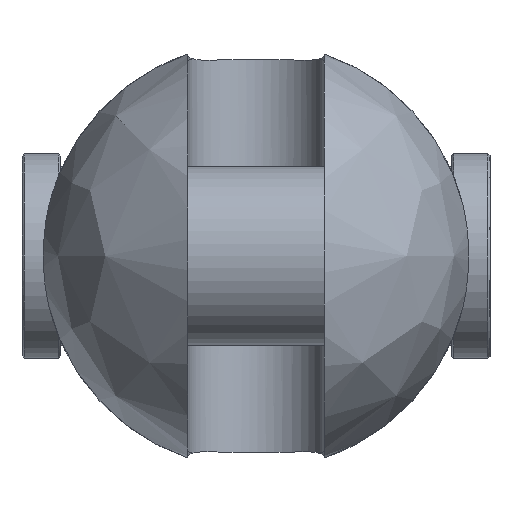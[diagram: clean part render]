
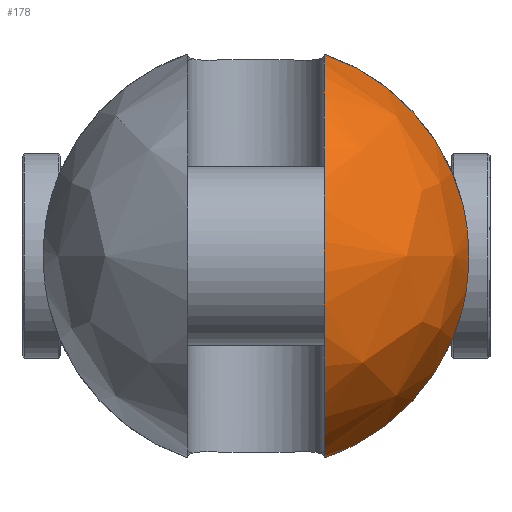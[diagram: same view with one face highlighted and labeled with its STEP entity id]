
A CAD part, left-side view. The second image highlights one B-rep face of the part: STEP entity #178.
In plain terms, the highlighted free-form (B-spline) face has degree [2, 2] with [9, 5] control points.
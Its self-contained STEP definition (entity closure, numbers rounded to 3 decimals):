
#178=ADVANCED_FACE('',(#318),#2404,.T.);
#318=FACE_OUTER_BOUND('',#478,.T.);
#478=EDGE_LOOP('',(#1187,#1188,#1189,#1190));
#1187=ORIENTED_EDGE('',*,*,#1570,.T.);
#1188=ORIENTED_EDGE('',*,*,#1594,.F.);
#1189=ORIENTED_EDGE('',*,*,#1606,.T.);
#1190=ORIENTED_EDGE('',*,*,#1586,.F.);
#1570=EDGE_CURVE('',#2237,#2236,#1972,.T.);
#1586=EDGE_CURVE('',#2237,#2249,#1982,.T.);
#1594=EDGE_CURVE('',#2256,#2236,#1983,.T.);
#1606=EDGE_CURVE('',#2256,#2249,#1779,.T.);
#1779=B_SPLINE_CURVE_WITH_KNOTS('',3,(#6098,#6099,#6100,#6101,#6102,#6103,
#6104,#6105,#6106,#6107,#6108,#6109,#6110,#6111),.UNSPECIFIED.,.F.,.F.,
(4,2,2,2,2,2,4),(0.,1.423,6.959,12.495,18.031,
23.567,24.99),.UNSPECIFIED.);
#1972=(
BOUNDED_CURVE()
B_SPLINE_CURVE(2,(#5874,#5875,#5876,#5877,#5878),.UNSPECIFIED.,.F.,.F.)
B_SPLINE_CURVE_WITH_KNOTS((3,2,3),(-148.82,-74.41,
0.),.UNSPECIFIED.)
CURVE()
GEOMETRIC_REPRESENTATION_ITEM()
RATIONAL_B_SPLINE_CURVE((1.,0.707,1.,0.707,1.))
REPRESENTATION_ITEM('')
);
#1982=(
BOUNDED_CURVE()
B_SPLINE_CURVE(2,(#5968,#5969,#5970),.UNSPECIFIED.,.F.,.F.)
B_SPLINE_CURVE_WITH_KNOTS((3,3),(0.,50.264),.UNSPECIFIED.)
CURVE()
GEOMETRIC_REPRESENTATION_ITEM()
RATIONAL_B_SPLINE_CURVE((1.,0.876,1.))
REPRESENTATION_ITEM('')
);
#1983=(
BOUNDED_CURVE()
B_SPLINE_CURVE(2,(#6025,#6026,#6027),.UNSPECIFIED.,.F.,.F.)
B_SPLINE_CURVE_WITH_KNOTS((3,3),(0.,50.264),.UNSPECIFIED.)
CURVE()
GEOMETRIC_REPRESENTATION_ITEM()
RATIONAL_B_SPLINE_CURVE((1.,0.876,1.))
REPRESENTATION_ITEM('')
);
#2236=VERTEX_POINT('',#5734);
#2237=VERTEX_POINT('',#5735);
#2249=VERTEX_POINT('',#5747);
#2256=VERTEX_POINT('',#5754);
#2404=(
BOUNDED_SURFACE()
B_SPLINE_SURFACE(2,2,((#5448,#5449,#5450,#5451,#5452),(#5453,#5454,#5455,
#5456,#5457),(#5458,#5459,#5460,#5461,#5462),(#5463,#5464,#5465,#5466,#5467),
(#5468,#5469,#5470,#5471,#5472),(#5473,#5474,#5475,#5476,#5477),(#5478,
#5479,#5480,#5481,#5482),(#5483,#5484,#5485,#5486,#5487),(#5488,#5489,#5490,
#5491,#5492)),.UNSPECIFIED.,.T.,.F.,.F.)
B_SPLINE_SURFACE_WITH_KNOTS((3,2,2,2,3),(3,2,3),(0.,78.54,157.08,
235.619,314.159),(0.,78.54,157.08),
 .UNSPECIFIED.)
GEOMETRIC_REPRESENTATION_ITEM()
RATIONAL_B_SPLINE_SURFACE(((1.,0.707,1.,0.707,1.),
(0.707,0.5,0.707,0.5,0.707),(1.,0.707,
1.,0.707,1.),(0.707,0.5,0.707,0.5,0.707),
(1.,0.707,1.,0.707,1.),(0.707,0.5,0.707,
0.5,0.707),(1.,0.707,1.,0.707,1.),(0.707,
0.5,0.707,0.5,0.707),(1.,0.707,1.,0.707,
1.)))
REPRESENTATION_ITEM('')
SURFACE()
);
#5448=CARTESIAN_POINT('',(-72.,0.,0.));
#5449=CARTESIAN_POINT('',(-72.,50.,0.));
#5450=CARTESIAN_POINT('',(-22.,50.,0.));
#5451=CARTESIAN_POINT('',(28.,50.,0.));
#5452=CARTESIAN_POINT('',(28.,0.,0.));
#5453=CARTESIAN_POINT('',(-72.,0.,0.));
#5454=CARTESIAN_POINT('',(-72.,50.,50.));
#5455=CARTESIAN_POINT('',(-22.,50.,50.));
#5456=CARTESIAN_POINT('',(28.,50.,50.));
#5457=CARTESIAN_POINT('',(28.,0.,0.));
#5458=CARTESIAN_POINT('',(-72.,0.,0.));
#5459=CARTESIAN_POINT('',(-72.,0.,50.));
#5460=CARTESIAN_POINT('',(-22.,0.,50.));
#5461=CARTESIAN_POINT('',(28.,0.,50.));
#5462=CARTESIAN_POINT('',(28.,0.,0.));
#5463=CARTESIAN_POINT('',(-72.,0.,0.));
#5464=CARTESIAN_POINT('',(-72.,-50.,50.));
#5465=CARTESIAN_POINT('',(-22.,-50.,50.));
#5466=CARTESIAN_POINT('',(28.,-50.,50.));
#5467=CARTESIAN_POINT('',(28.,0.,0.));
#5468=CARTESIAN_POINT('',(-72.,0.,0.));
#5469=CARTESIAN_POINT('',(-72.,-50.,0.));
#5470=CARTESIAN_POINT('',(-22.,-50.,0.));
#5471=CARTESIAN_POINT('',(28.,-50.,0.));
#5472=CARTESIAN_POINT('',(28.,0.,0.));
#5473=CARTESIAN_POINT('',(-72.,0.,0.));
#5474=CARTESIAN_POINT('',(-72.,-50.,-50.));
#5475=CARTESIAN_POINT('',(-22.,-50.,-50.));
#5476=CARTESIAN_POINT('',(28.,-50.,-50.));
#5477=CARTESIAN_POINT('',(28.,0.,0.));
#5478=CARTESIAN_POINT('',(-72.,0.,0.));
#5479=CARTESIAN_POINT('',(-72.,0.,-50.));
#5480=CARTESIAN_POINT('',(-22.,0.,-50.));
#5481=CARTESIAN_POINT('',(28.,0.,-50.));
#5482=CARTESIAN_POINT('',(28.,0.,0.));
#5483=CARTESIAN_POINT('',(-72.,0.,0.));
#5484=CARTESIAN_POINT('',(-72.,50.,-50.));
#5485=CARTESIAN_POINT('',(-22.,50.,-50.));
#5486=CARTESIAN_POINT('',(28.,50.,-50.));
#5487=CARTESIAN_POINT('',(28.,0.,0.));
#5488=CARTESIAN_POINT('',(-72.,0.,0.));
#5489=CARTESIAN_POINT('',(-72.,50.,0.));
#5490=CARTESIAN_POINT('',(-22.,50.,0.));
#5491=CARTESIAN_POINT('',(28.,50.,0.));
#5492=CARTESIAN_POINT('',(28.,0.,0.));
#5734=CARTESIAN_POINT('',(-22.,-16.,-47.371));
#5735=CARTESIAN_POINT('',(-22.,-16.,47.371));
#5747=CARTESIAN_POINT('',(-22.,-48.57,11.874));
#5754=CARTESIAN_POINT('',(-22.,-48.57,-11.874));
#5874=CARTESIAN_POINT('',(-22.,-16.,47.371));
#5875=CARTESIAN_POINT('',(-69.371,-16.,47.371));
#5876=CARTESIAN_POINT('',(-69.371,-16.,0.));
#5877=CARTESIAN_POINT('',(-69.371,-16.,-47.371));
#5878=CARTESIAN_POINT('',(-22.,-16.,-47.371));
#5968=CARTESIAN_POINT('',(-22.,-16.,47.371));
#5969=CARTESIAN_POINT('',(-22.,-42.042,38.575));
#5970=CARTESIAN_POINT('',(-22.,-48.57,11.874));
#6025=CARTESIAN_POINT('',(-22.,-48.57,-11.874));
#6026=CARTESIAN_POINT('',(-22.,-42.042,-38.575));
#6027=CARTESIAN_POINT('',(-22.,-16.,-47.371));
#6098=CARTESIAN_POINT('',(-22.,-48.57,-11.874));
#6099=CARTESIAN_POINT('',(-22.223,-48.671,-11.461));
#6100=CARTESIAN_POINT('',(-22.435,-48.766,-11.041));
#6101=CARTESIAN_POINT('',(-23.414,-49.207,-8.953));
#6102=CARTESIAN_POINT('',(-24.013,-49.473,-7.192));
#6103=CARTESIAN_POINT('',(-24.807,-49.825,-3.606));
#6104=CARTESIAN_POINT('',(-25.,-49.91,-1.781));
#6105=CARTESIAN_POINT('',(-25.,-49.91,1.781));
#6106=CARTESIAN_POINT('',(-24.807,-49.825,3.606));
#6107=CARTESIAN_POINT('',(-24.013,-49.473,7.192));
#6108=CARTESIAN_POINT('',(-23.414,-49.207,8.953));
#6109=CARTESIAN_POINT('',(-22.435,-48.766,11.041));
#6110=CARTESIAN_POINT('',(-22.223,-48.671,11.461));
#6111=CARTESIAN_POINT('',(-22.,-48.57,11.874));
